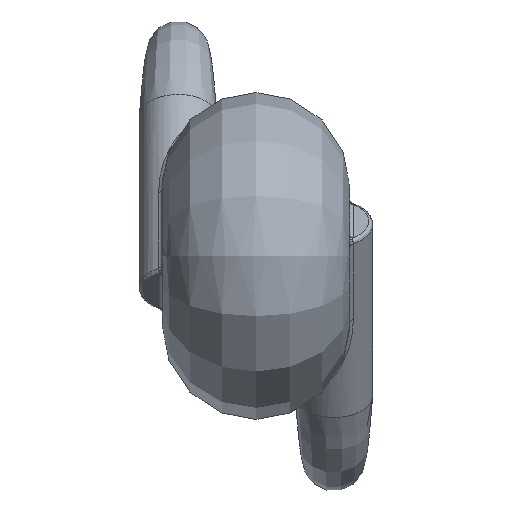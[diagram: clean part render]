
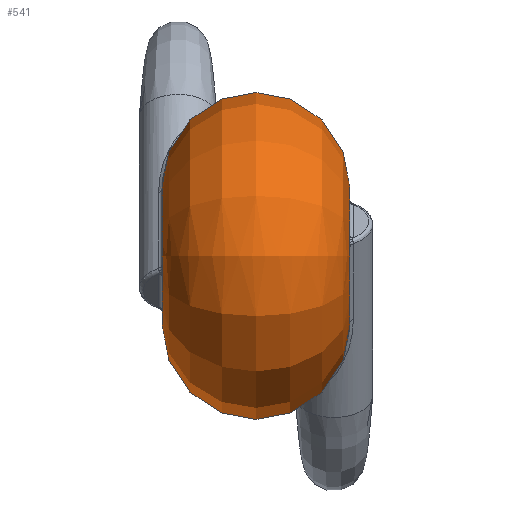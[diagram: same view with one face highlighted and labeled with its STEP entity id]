
A CAD part, left-side view. The second image highlights one B-rep face of the part: STEP entity #541.
In plain terms, the highlighted free-form (B-spline) face has degree [2, 2] with [5, 9] control points.
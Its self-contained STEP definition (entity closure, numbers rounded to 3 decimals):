
#14=(
BOUNDED_CURVE()
B_SPLINE_CURVE(2,(#1842,#1843,#1844,#1845,#1846),.UNSPECIFIED.,.F.,.F.)
B_SPLINE_CURVE_WITH_KNOTS((3,2,3),(-1.571,0.,1.571),
 .UNSPECIFIED.)
CURVE()
GEOMETRIC_REPRESENTATION_ITEM()
RATIONAL_B_SPLINE_CURVE((1.,0.707,1.,0.707,1.))
REPRESENTATION_ITEM('')
);
#15=(
BOUNDED_SURFACE()
B_SPLINE_SURFACE(2,2,((#1796,#1797,#1798,#1799,#1800,#1801,#1802,#1803,
#1804),(#1805,#1806,#1807,#1808,#1809,#1810,#1811,#1812,#1813),(#1814,#1815,
#1816,#1817,#1818,#1819,#1820,#1821,#1822),(#1823,#1824,#1825,#1826,#1827,
#1828,#1829,#1830,#1831),(#1832,#1833,#1834,#1835,#1836,#1837,#1838,#1839,
#1840)),.UNSPECIFIED.,.F.,.T.,.F.)
B_SPLINE_SURFACE_WITH_KNOTS((3,2,3),(3,2,2,2,3),(-1.571,0.,1.571),
(-3.142,-1.571,0.,1.571,3.142),
 .UNSPECIFIED.)
GEOMETRIC_REPRESENTATION_ITEM()
RATIONAL_B_SPLINE_SURFACE(((1.,0.707,1.,0.707,1.,
0.707,1.,0.707,1.),(0.707,0.5,0.707,
0.5,0.707,0.5,0.707,0.5,0.707),(1.,
0.707,1.,0.707,1.,0.707,1.,0.707,
1.),(0.707,0.5,0.707,0.5,0.707,0.5,
0.707,0.5,0.707),(1.,0.707,1.,0.707,
1.,0.707,1.,0.707,1.)))
REPRESENTATION_ITEM('')
SURFACE()
);
#78=B_SPLINE_CURVE_WITH_KNOTS('',3,(#1775,#1776,#1777,#1778,#1779,#1780,
#1781,#1782,#1783,#1784,#1785,#1786,#1787,#1788,#1789),.UNSPECIFIED.,.F.,
 .F.,(4,1,1,1,1,1,1,1,1,1,1,1,4),(-0.846,-0.786,
-0.725,-0.605,-0.544,-0.484,
-0.423,-0.363,-0.302,-0.242,
-0.121,-0.06,0.),
 .UNSPECIFIED.);
#79=B_SPLINE_CURVE_WITH_KNOTS('',3,(#1850,#1851,#1852,#1853,#1854,#1855,
#1856,#1857,#1858,#1859,#1860,#1861),.UNSPECIFIED.,.F.,.F.,(4,1,1,1,1,1,
1,1,1,4),(-0.846,-0.725,-0.605,-0.484,
-0.423,-0.363,-0.302,-0.242,
-0.121,0.),.UNSPECIFIED.);
#126=FACE_OUTER_BOUND('',#167,.T.);
#167=EDGE_LOOP('',(#432,#433,#434,#435,#436,#437,#438,#439));
#204=CIRCLE('',#595,1.795);
#205=CIRCLE('',#596,1.795);
#206=CIRCLE('',#597,1.795);
#207=CIRCLE('',#598,1.795);
#246=VERTEX_POINT('',#1695);
#247=VERTEX_POINT('',#1773);
#248=VERTEX_POINT('',#1793);
#249=VERTEX_POINT('',#1841);
#250=VERTEX_POINT('',#1847);
#251=VERTEX_POINT('',#1849);
#311=EDGE_CURVE('',#247,#246,#78,.T.);
#313=EDGE_CURVE('',#247,#248,#204,.T.);
#314=EDGE_CURVE('',#248,#246,#205,.T.);
#315=EDGE_CURVE('',#248,#249,#14,.T.);
#316=EDGE_CURVE('',#250,#249,#206,.T.);
#317=EDGE_CURVE('',#250,#251,#79,.T.);
#318=EDGE_CURVE('',#249,#251,#207,.T.);
#432=ORIENTED_EDGE('',*,*,#311,.T.);
#433=ORIENTED_EDGE('',*,*,#314,.F.);
#434=ORIENTED_EDGE('',*,*,#315,.T.);
#435=ORIENTED_EDGE('',*,*,#316,.F.);
#436=ORIENTED_EDGE('',*,*,#317,.T.);
#437=ORIENTED_EDGE('',*,*,#318,.F.);
#438=ORIENTED_EDGE('',*,*,#315,.F.);
#439=ORIENTED_EDGE('',*,*,#313,.F.);
#541=ADVANCED_FACE('',(#126),#15,.T.);
#595=AXIS2_PLACEMENT_3D('',#1794,#708,#709);
#596=AXIS2_PLACEMENT_3D('',#1795,#710,#711);
#597=AXIS2_PLACEMENT_3D('',#1848,#712,#713);
#598=AXIS2_PLACEMENT_3D('',#1862,#714,#715);
#708=DIRECTION('center_axis',(0.,1.,0.));
#709=DIRECTION('ref_axis',(-1.,0.,0.));
#710=DIRECTION('center_axis',(0.,1.,0.));
#711=DIRECTION('ref_axis',(-1.,0.,0.));
#712=DIRECTION('center_axis',(0.,-1.,0.));
#713=DIRECTION('ref_axis',(-1.,0.,0.));
#714=DIRECTION('center_axis',(0.,-1.,0.));
#715=DIRECTION('ref_axis',(-1.,0.,0.));
#1695=CARTESIAN_POINT('',(0.472,4.,1.732));
#1773=CARTESIAN_POINT('',(1.795,4.,0.008));
#1775=CARTESIAN_POINT('Ctrl Pts',(1.795,4.,0.008));
#1776=CARTESIAN_POINT('Ctrl Pts',(1.902,4.,0.174));
#1777=CARTESIAN_POINT('Ctrl Pts',(2.12,3.985,0.493));
#1778=CARTESIAN_POINT('Ctrl Pts',(2.598,3.827,1.061));
#1779=CARTESIAN_POINT('Ctrl Pts',(3.052,3.434,1.538));
#1780=CARTESIAN_POINT('Ctrl Pts',(3.223,2.914,2.067));
#1781=CARTESIAN_POINT('Ctrl Pts',(3.15,2.542,2.504));
#1782=CARTESIAN_POINT('Ctrl Pts',(2.847,2.307,2.959));
#1783=CARTESIAN_POINT('Ctrl Pts',(2.376,2.343,3.336));
#1784=CARTESIAN_POINT('Ctrl Pts',(1.893,2.652,3.496));
#1785=CARTESIAN_POINT('Ctrl Pts',(1.387,3.222,3.357));
#1786=CARTESIAN_POINT('Ctrl Pts',(1.091,3.714,2.835));
#1787=CARTESIAN_POINT('Ctrl Pts',(0.782,3.96,2.201));
#1788=CARTESIAN_POINT('Ctrl Pts',(0.583,4.,1.883));
#1789=CARTESIAN_POINT('Ctrl Pts',(0.472,4.,1.732));
#1793=CARTESIAN_POINT('',(-1.795,4.,0.));
#1794=CARTESIAN_POINT('Origin',(0.,4.,0.));
#1795=CARTESIAN_POINT('Origin',(0.,4.,0.));
#1796=CARTESIAN_POINT('Ctrl Pts',(-1.795,-0.81,0.));
#1797=CARTESIAN_POINT('Ctrl Pts',(-1.795,-0.81,-1.795));
#1798=CARTESIAN_POINT('Ctrl Pts',(0.,-0.81,-1.795));
#1799=CARTESIAN_POINT('Ctrl Pts',(1.795,-0.81,-1.795));
#1800=CARTESIAN_POINT('Ctrl Pts',(1.795,-0.81,0.));
#1801=CARTESIAN_POINT('Ctrl Pts',(1.795,-0.81,1.795));
#1802=CARTESIAN_POINT('Ctrl Pts',(0.,-0.81,1.795));
#1803=CARTESIAN_POINT('Ctrl Pts',(-1.795,-0.81,1.795));
#1804=CARTESIAN_POINT('Ctrl Pts',(-1.795,-0.81,0.));
#1805=CARTESIAN_POINT('Ctrl Pts',(-4.2,-0.81,0.));
#1806=CARTESIAN_POINT('Ctrl Pts',(-4.2,-0.81,-4.2));
#1807=CARTESIAN_POINT('Ctrl Pts',(0.,-0.81,-4.2));
#1808=CARTESIAN_POINT('Ctrl Pts',(4.2,-0.81,-4.2));
#1809=CARTESIAN_POINT('Ctrl Pts',(4.2,-0.81,0.));
#1810=CARTESIAN_POINT('Ctrl Pts',(4.2,-0.81,4.2));
#1811=CARTESIAN_POINT('Ctrl Pts',(0.,-0.81,4.2));
#1812=CARTESIAN_POINT('Ctrl Pts',(-4.2,-0.81,4.2));
#1813=CARTESIAN_POINT('Ctrl Pts',(-4.2,-0.81,0.));
#1814=CARTESIAN_POINT('Ctrl Pts',(-4.2,1.595,0.));
#1815=CARTESIAN_POINT('Ctrl Pts',(-4.2,1.595,-4.2));
#1816=CARTESIAN_POINT('Ctrl Pts',(0.,1.595,-4.2));
#1817=CARTESIAN_POINT('Ctrl Pts',(4.2,1.595,-4.2));
#1818=CARTESIAN_POINT('Ctrl Pts',(4.2,1.595,0.));
#1819=CARTESIAN_POINT('Ctrl Pts',(4.2,1.595,4.2));
#1820=CARTESIAN_POINT('Ctrl Pts',(0.,1.595,4.2));
#1821=CARTESIAN_POINT('Ctrl Pts',(-4.2,1.595,4.2));
#1822=CARTESIAN_POINT('Ctrl Pts',(-4.2,1.595,0.));
#1823=CARTESIAN_POINT('Ctrl Pts',(-4.2,4.,0.));
#1824=CARTESIAN_POINT('Ctrl Pts',(-4.2,4.,-4.2));
#1825=CARTESIAN_POINT('Ctrl Pts',(0.,4.,-4.2));
#1826=CARTESIAN_POINT('Ctrl Pts',(4.2,4.,-4.2));
#1827=CARTESIAN_POINT('Ctrl Pts',(4.2,4.,0.));
#1828=CARTESIAN_POINT('Ctrl Pts',(4.2,4.,4.2));
#1829=CARTESIAN_POINT('Ctrl Pts',(0.,4.,4.2));
#1830=CARTESIAN_POINT('Ctrl Pts',(-4.2,4.,4.2));
#1831=CARTESIAN_POINT('Ctrl Pts',(-4.2,4.,0.));
#1832=CARTESIAN_POINT('Ctrl Pts',(-1.795,4.,0.));
#1833=CARTESIAN_POINT('Ctrl Pts',(-1.795,4.,-1.795));
#1834=CARTESIAN_POINT('Ctrl Pts',(0.,4.,-1.795));
#1835=CARTESIAN_POINT('Ctrl Pts',(1.795,4.,-1.795));
#1836=CARTESIAN_POINT('Ctrl Pts',(1.795,4.,0.));
#1837=CARTESIAN_POINT('Ctrl Pts',(1.795,4.,1.795));
#1838=CARTESIAN_POINT('Ctrl Pts',(0.,4.,1.795));
#1839=CARTESIAN_POINT('Ctrl Pts',(-1.795,4.,1.795));
#1840=CARTESIAN_POINT('Ctrl Pts',(-1.795,4.,0.));
#1841=CARTESIAN_POINT('',(-1.795,-0.81,0.));
#1842=CARTESIAN_POINT('Ctrl Pts',(-1.795,4.,0.));
#1843=CARTESIAN_POINT('Ctrl Pts',(-4.2,4.,0.));
#1844=CARTESIAN_POINT('Ctrl Pts',(-4.2,1.595,0.));
#1845=CARTESIAN_POINT('Ctrl Pts',(-4.2,-0.81,0.));
#1846=CARTESIAN_POINT('Ctrl Pts',(-1.795,-0.81,0.));
#1847=CARTESIAN_POINT('',(1.795,-0.81,-0.008));
#1848=CARTESIAN_POINT('Origin',(0.,-0.81,0.));
#1849=CARTESIAN_POINT('',(0.472,-0.81,-1.732));
#1850=CARTESIAN_POINT('Ctrl Pts',(1.795,-0.81,-0.008));
#1851=CARTESIAN_POINT('Ctrl Pts',(2.008,-0.81,-0.339));
#1852=CARTESIAN_POINT('Ctrl Pts',(2.478,-0.736,-0.946));
#1853=CARTESIAN_POINT('Ctrl Pts',(3.172,-0.15,-1.651));
#1854=CARTESIAN_POINT('Ctrl Pts',(3.253,0.568,-2.35));
#1855=CARTESIAN_POINT('Ctrl Pts',(2.847,0.884,-2.96));
#1856=CARTESIAN_POINT('Ctrl Pts',(2.377,0.846,-3.335));
#1857=CARTESIAN_POINT('Ctrl Pts',(1.894,0.539,-3.497));
#1858=CARTESIAN_POINT('Ctrl Pts',(1.385,-0.032,-3.358));
#1859=CARTESIAN_POINT('Ctrl Pts',(1.021,-0.648,-2.704));
#1860=CARTESIAN_POINT('Ctrl Pts',(0.695,-0.81,-2.034));
#1861=CARTESIAN_POINT('Ctrl Pts',(0.472,-0.81,-1.732));
#1862=CARTESIAN_POINT('Origin',(0.,-0.81,0.));
